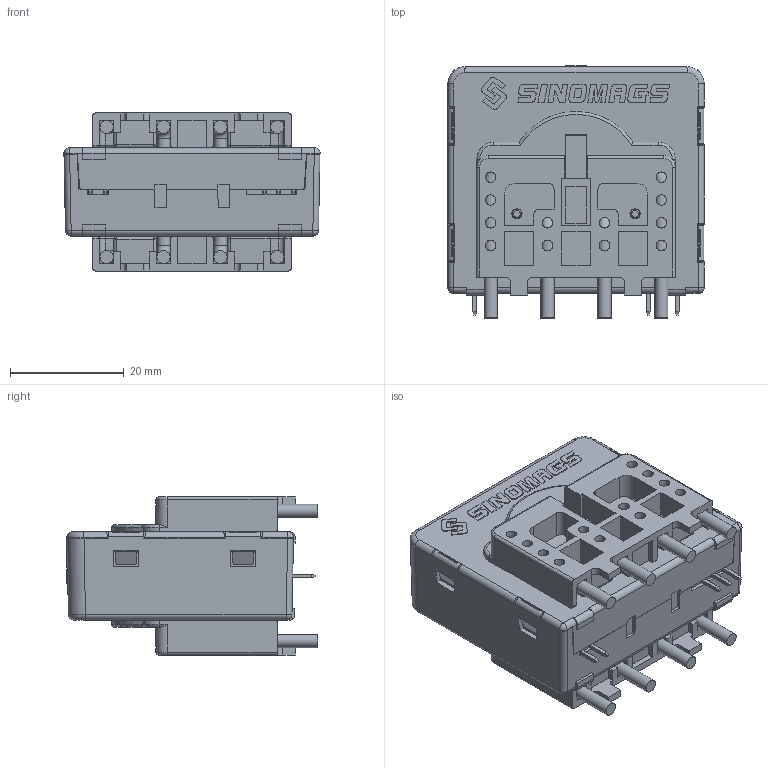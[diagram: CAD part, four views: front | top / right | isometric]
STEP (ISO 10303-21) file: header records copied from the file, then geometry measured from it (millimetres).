
FILE_DESCRIPTION(/* description */ (''),/* implementation_level */ '2;1');
FILE_NAME(/* name */ 'SFG-P-S2.stp',/* time_stamp */ '2022-06-30T11:00:57+08:00',/* author */ (''),/* organization */ (''),/* preprocessor_version */ 'ST-DEVELOPER v15',/* originating_system */ 'SIEMENS PLM Software NX 8.5',/* authorisation */ '');
FILE_SCHEMA (('AUTOMOTIVE_DESIGN { 1 0 10303 214 3 1 1 1 }'));
Length unit declared in the file: millimetre
Products named in the file (1): Gong24DC3F949mbv
Bounding box: 45 x 44.24 x 27.76 mm (x, y, z)
Volume: 32906.6 mm3; surface area: 17374.7 mm2
Topology: 5 solids, 5 shells, 921 faces, 2538 edges, 1634 vertices
Faces by surface type: plane 589, cylinder 183, bspline 57, cone 44, torus 40, sphere 8
Full cylindrical faces by diameter (mm): 1.6 x4, 2.3 x16
Entity records: 30539 total; most frequent: CARTESIAN_POINT 7123, ORIENTED_EDGE 4884, DIRECTION 4512, EDGE_CURVE 2442, LINE 1822, VECTOR 1822, VERTEX_POINT 1616, AXIS2_PLACEMENT_3D 1345
